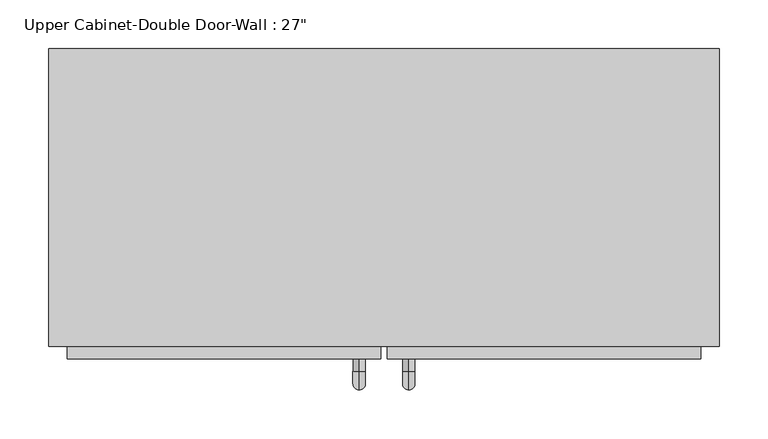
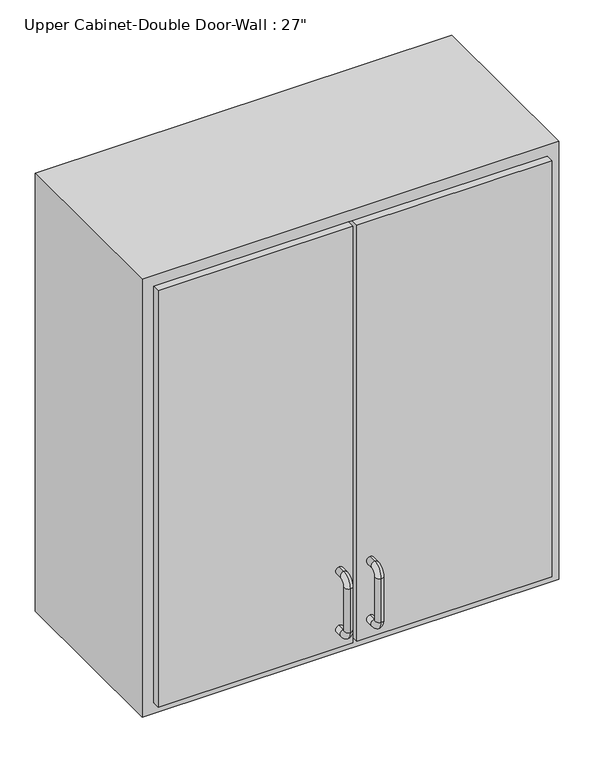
"""IFC4 building model written with IfcOpenShell, lengths in millimetres: furniture geometry."""

from ifc_helpers import new_model, si_unit, point, frame, origin, place, context, project, spatial, polyline, circle_curve, ellipse_curve, trimmed, outline, extrude, faceted_brep, source, transform, mapped, element, save
from ifc_brep_helpers import plane_surface, cylinder_surface, revolved_surface, advanced_brep


def furniture_09d05a5b(model_context):
    return source(origin(), model_context, "Body", "SolidModel", [
        faceted_brep([(-313.1288372, -57.15, 2133.6), (372.6711628, -57.15, 2133.6), (372.6711628, -57.15, 1371.6), (-313.1288372, -57.15, 1371.6), (-313.1288372, -361.95, 2133.6), (-313.1288372, -361.95, 1371.6), (372.6711628, -361.95, 1371.6), (372.6711628, -361.95, 2133.6), (-294.0788372, -361.95, 2114.55), (353.6211628, -361.95, 2114.55), (353.6211628, -361.95, 1390.65), (-294.0788372, -361.95, 1390.65), (-294.0788372, -76.2, 2114.55), (353.6211628, -76.2, 2114.55), (353.6211628, -76.2, 1390.65), (-294.0788372, -76.2, 1390.65)], [[[0, 1, 2, 3]], [[4, 5, 6, 7], [8, 9, 10, 11]], [[3, 5, 4, 0]], [[2, 6, 5, 3]], [[1, 7, 6, 2]], [[0, 4, 7, 1]], [[8, 12, 13, 9]], [[9, 13, 14, 10]], [[10, 14, 15, 11]], [[11, 15, 12, 8]], [[12, 15, 14, 13]]]),
        advanced_brep(
        [(55.1711628, -374.65, 1517.65), (55.1711628, -374.65, 1530.35), (55.1711628, -387.35, 1530.35), (55.1711628, -387.35, 1517.65), (55.1711628, -406.4, 1511.3), (55.1711628, -393.7, 1511.3), (55.1711628, -406.4, 1435.1), (55.1711628, -393.7, 1435.1), (55.1711628, -387.35, 1416.05), (55.1711628, -387.35, 1428.75), (55.1711628, -374.65, 1428.75), (55.1711628, -374.65, 1416.05)],
        [
            (0, 1, circle_curve(frame((55.1711628, -374.65, 1524.0), z_axis=(0.0, 1.0, 0.0), x_axis=(0.0, 0.0, -1.0)), 6.35)),
            (1, 0, circle_curve(frame((55.1711628, -374.65, 1524.0), z_axis=(0.0, 1.0, 0.0), x_axis=(0.0, 0.0, -1.0)), 6.35)),
            (1, 2),
            (2, 3, circle_curve(frame((55.1711628, -387.35, 1524.0), z_axis=(0.0, 1.0, 0.0), x_axis=(0.0, 0.0, -1.0)), 6.35)),
            (3, 0),
            (3, 2, circle_curve(frame((55.1711628, -387.35, 1524.0), z_axis=(0.0, 1.0, 0.0), x_axis=(0.0, 0.0, -1.0)), 6.35)),
            (4, 5, circle_curve(frame((55.1711628, -400.05, 1511.3), z_axis=(0.0, 0.0, 1.0), x_axis=(0.0, 1.0, 0.0)), 6.35)),
            (5, 3, circle_curve(frame((55.1711628, -387.35, 1511.3), z_axis=(-1.0, 0.0, 0.0), x_axis=(0.0, 0.0, 1.0)), 6.35)),
            (2, 4, circle_curve(frame((55.1711628, -387.35, 1511.3), z_axis=(1.0, 0.0, 0.0), x_axis=(0.0, 0.0, 1.0)), 19.05)),
            (5, 4, circle_curve(frame((55.1711628, -400.05, 1511.3), z_axis=(0.0, 0.0, 1.0), x_axis=(0.0, 1.0, 0.0)), 6.35)),
            (4, 6),
            (6, 7, circle_curve(frame((55.1711628, -400.05, 1435.1), z_axis=(0.0, 0.0, 1.0), x_axis=(0.0, 1.0, 0.0)), 6.35)),
            (7, 5),
            (7, 6, circle_curve(frame((55.1711628, -400.05, 1435.1), z_axis=(0.0, 0.0, 1.0), x_axis=(0.0, 1.0, 0.0)), 6.35)),
            (8, 9, circle_curve(frame((55.1711628, -387.35, 1422.4), z_axis=(0.0, -1.0, 0.0), x_axis=(0.0, 0.0, 1.0)), 6.35)),
            (9, 7, circle_curve(frame((55.1711628, -387.35, 1435.1), z_axis=(-1.0, 0.0, 0.0), x_axis=(0.0, -1.0, 0.0)), 6.35)),
            (6, 8, circle_curve(frame((55.1711628, -387.35, 1435.1), z_axis=(1.0, 0.0, 0.0), x_axis=(0.0, -1.0, 0.0)), 19.05)),
            (9, 8, circle_curve(frame((55.1711628, -387.35, 1422.4), z_axis=(0.0, -1.0, 0.0), x_axis=(0.0, 0.0, 1.0)), 6.35)),
            (10, 11, circle_curve(frame((55.1711628, -374.65, 1422.4), z_axis=(0.0, 1.0, 0.0), x_axis=(0.0, 0.0, 1.0)), 6.35)),
            (11, 10, circle_curve(frame((55.1711628, -374.65, 1422.4), z_axis=(0.0, 1.0, 0.0), x_axis=(0.0, 0.0, 1.0)), 6.35)),
            (8, 11),
            (10, 9),
        ],
        [
            plane_surface(frame((48.8211628, -374.65, 1524.0), z_axis=(0.0, 1.0, 0.0), x_axis=(0.0, 0.0, 1.0))),
            cylinder_surface(frame((55.1711628, -374.65, 1524.0), z_axis=(0.0, 1.0, 0.0), x_axis=(0.0, 0.0, -1.0)), 6.35),
            revolved_surface(trimmed(ellipse_curve(frame((55.1711628, -387.35, 1524.0), z_axis=(0.0, -1.0, 0.0), x_axis=(0.0, 0.0, -1.0)), 6.35, 6.35), [point((55.1711628, -387.35, 1517.65))], [point((55.1711628, -387.35, 1530.35))], True, "CARTESIAN"), (55.1711628, -387.35, 1511.3), (-1.0, 0.0, 0.0)),
            revolved_surface(trimmed(ellipse_curve(frame((55.1711628, -387.35, 1524.0), z_axis=(0.0, -1.0, 0.0), x_axis=(0.0, 0.0, -1.0)), 6.35, 6.35), [point((55.1711628, -387.35, 1530.35))], [point((55.1711628, -387.35, 1517.65))], True, "CARTESIAN"), (55.1711628, -387.35, 1511.3), (-1.0, 0.0, 0.0)),
            cylinder_surface(frame((55.1711628, -400.05, 1511.3), z_axis=(0.0, 0.0, 1.0), x_axis=(0.0, 1.0, 0.0)), 6.35),
            revolved_surface(trimmed(ellipse_curve(frame((55.1711628, -400.05, 1435.1), z_axis=(0.0, 0.0, -1.0), x_axis=(0.0, 1.0, 0.0)), 6.35, 6.35), [point((55.1711628, -393.7, 1435.1))], [point((55.1711628, -406.4, 1435.1))], True, "CARTESIAN"), (55.1711628, -387.35, 1435.1), (-1.0, 0.0, 0.0)),
            revolved_surface(trimmed(ellipse_curve(frame((55.1711628, -400.05, 1435.1), z_axis=(0.0, 0.0, -1.0), x_axis=(0.0, 1.0, 0.0)), 6.35, 6.35), [point((55.1711628, -406.4, 1435.1))], [point((55.1711628, -393.7, 1435.1))], True, "CARTESIAN"), (55.1711628, -387.35, 1435.1), (-1.0, 0.0, 0.0)),
            plane_surface(frame((48.8211628, -374.65, 1422.4), z_axis=(0.0, 1.0, 0.0), x_axis=(0.0, 0.0, -1.0))),
            cylinder_surface(frame((55.1711628, -387.35, 1422.4), z_axis=(0.0, -1.0, 0.0), x_axis=(0.0, 0.0, 1.0)), 6.35),
        ],
        [
            (0, [[1, 2]]),
            (1, [[3, 4, 5, -2]]),
            (1, [[-5, 6, -3, -1]]),
            (2, [[7, 8, -4, 9]]),
            (3, [[10, -9, -6, -8]]),
            (4, [[11, 12, 13, -7]]),
            (4, [[-13, 14, -11, -10]]),
            (5, [[15, 16, -12, 17]]),
            (6, [[18, -17, -14, -16]]),
            (7, [[19, 20]]),
            (8, [[21, -19, 22, -15]]),
            (8, [[-22, -20, -21, -18]]),
        ],
    ),
        advanced_brep(
        [(4.3711628, -374.65, 1517.65), (4.3711628, -374.65, 1530.35), (4.3711628, -387.35, 1530.35), (4.3711628, -387.35, 1517.65), (4.3711628, -406.4, 1511.3), (4.3711628, -393.7, 1511.3), (4.3711628, -406.4, 1435.1), (4.3711628, -393.7, 1435.1), (4.3711628, -387.35, 1416.05), (4.3711628, -387.35, 1428.75), (4.3711628, -374.65, 1428.75), (4.3711628, -374.65, 1416.05)],
        [
            (0, 1, circle_curve(frame((4.3711628, -374.65, 1524.0), z_axis=(0.0, 1.0, 0.0), x_axis=(0.0, 0.0, 1.0)), 6.35)),
            (1, 0, circle_curve(frame((4.3711628, -374.65, 1524.0), z_axis=(0.0, 1.0, 0.0), x_axis=(0.0, 0.0, 1.0)), 6.35)),
            (1, 2),
            (2, 3, circle_curve(frame((4.3711628, -387.35, 1524.0), z_axis=(0.0, 1.0, 0.0), x_axis=(0.0, 0.0, 1.0)), 6.35)),
            (3, 0),
            (3, 2, circle_curve(frame((4.3711628, -387.35, 1524.0), z_axis=(0.0, 1.0, 0.0), x_axis=(0.0, 0.0, 1.0)), 6.35)),
            (4, 5, circle_curve(frame((4.3711628, -400.05, 1511.3), z_axis=(0.0, 0.0, 1.0), x_axis=(0.0, -1.0, 0.0)), 6.35)),
            (5, 3, circle_curve(frame((4.3711628, -387.35, 1511.3), z_axis=(-1.0, 0.0, 0.0), x_axis=(0.0, 0.0, 1.0)), 6.35)),
            (2, 4, circle_curve(frame((4.3711628, -387.35, 1511.3), z_axis=(1.0, 0.0, 0.0), x_axis=(0.0, 0.0, 1.0)), 19.05)),
            (5, 4, circle_curve(frame((4.3711628, -400.05, 1511.3), z_axis=(0.0, 0.0, 1.0), x_axis=(0.0, -1.0, 0.0)), 6.35)),
            (4, 6),
            (6, 7, circle_curve(frame((4.3711628, -400.05, 1435.1), z_axis=(0.0, 0.0, 1.0), x_axis=(0.0, -1.0, 0.0)), 6.35)),
            (7, 5),
            (7, 6, circle_curve(frame((4.3711628, -400.05, 1435.1), z_axis=(0.0, 0.0, 1.0), x_axis=(0.0, -1.0, 0.0)), 6.35)),
            (8, 9, circle_curve(frame((4.3711628, -387.35, 1422.4), z_axis=(0.0, -1.0, 0.0), x_axis=(0.0, 0.0, -1.0)), 6.35)),
            (9, 7, circle_curve(frame((4.3711628, -387.35, 1435.1), z_axis=(-1.0, 0.0, 0.0), x_axis=(0.0, -1.0, 0.0)), 6.35)),
            (6, 8, circle_curve(frame((4.3711628, -387.35, 1435.1), z_axis=(1.0, 0.0, 0.0), x_axis=(0.0, -1.0, 0.0)), 19.05)),
            (9, 8, circle_curve(frame((4.3711628, -387.35, 1422.4), z_axis=(0.0, -1.0, 0.0), x_axis=(0.0, 0.0, -1.0)), 6.35)),
            (10, 11, circle_curve(frame((4.3711628, -374.65, 1422.4), z_axis=(0.0, 1.0, 0.0), x_axis=(0.0, 0.0, -1.0)), 6.35)),
            (11, 10, circle_curve(frame((4.3711628, -374.65, 1422.4), z_axis=(0.0, 1.0, 0.0), x_axis=(0.0, 0.0, -1.0)), 6.35)),
            (8, 11),
            (10, 9),
        ],
        [
            plane_surface(frame((-1.9788372, -374.65, 1524.0), z_axis=(0.0, 1.0, 0.0), x_axis=(0.0, 0.0, 1.0))),
            cylinder_surface(frame((4.3711628, -374.65, 1524.0), z_axis=(0.0, 1.0, 0.0), x_axis=(0.0, 0.0, 1.0)), 6.35),
            revolved_surface(trimmed(ellipse_curve(frame((4.3711628, -387.35, 1524.0), z_axis=(0.0, -1.0, 0.0), x_axis=(0.0, 0.0, 1.0)), 6.35, 6.35), [point((4.3711628, -387.35, 1517.65))], [point((4.3711628, -387.35, 1530.35))], True, "CARTESIAN"), (4.3711628, -387.35, 1511.3), (-1.0, 0.0, 0.0)),
            revolved_surface(trimmed(ellipse_curve(frame((4.3711628, -387.35, 1524.0), z_axis=(0.0, -1.0, 0.0), x_axis=(0.0, 0.0, 1.0)), 6.35, 6.35), [point((4.3711628, -387.35, 1530.35))], [point((4.3711628, -387.35, 1517.65))], True, "CARTESIAN"), (4.3711628, -387.35, 1511.3), (-1.0, 0.0, 0.0)),
            cylinder_surface(frame((4.3711628, -400.05, 1511.3), z_axis=(0.0, 0.0, 1.0), x_axis=(0.0, -1.0, 0.0)), 6.35),
            revolved_surface(trimmed(ellipse_curve(frame((4.3711628, -400.05, 1435.1), z_axis=(0.0, 0.0, -1.0), x_axis=(0.0, -1.0, 0.0)), 6.35, 6.35), [point((4.3711628, -393.7, 1435.1))], [point((4.3711628, -406.4, 1435.1))], True, "CARTESIAN"), (4.3711628, -387.35, 1435.1), (-1.0, 0.0, 0.0)),
            revolved_surface(trimmed(ellipse_curve(frame((4.3711628, -400.05, 1435.1), z_axis=(0.0, 0.0, -1.0), x_axis=(0.0, -1.0, 0.0)), 6.35, 6.35), [point((4.3711628, -406.4, 1435.1))], [point((4.3711628, -393.7, 1435.1))], True, "CARTESIAN"), (4.3711628, -387.35, 1435.1), (-1.0, 0.0, 0.0)),
            plane_surface(frame((-1.9788372, -374.65, 1422.4), z_axis=(0.0, 1.0, 0.0), x_axis=(0.0, 0.0, -1.0))),
            cylinder_surface(frame((4.3711628, -387.35, 1422.4), z_axis=(0.0, -1.0, 0.0), x_axis=(0.0, 0.0, -1.0)), 6.35),
        ],
        [
            (0, [[1, 2]]),
            (1, [[3, 4, 5, -2]]),
            (1, [[-5, 6, -3, -1]]),
            (2, [[7, 8, -4, 9]]),
            (3, [[10, -9, -6, -8]]),
            (4, [[11, 12, 13, -7]]),
            (4, [[-13, 14, -11, -10]]),
            (5, [[15, 16, -12, 17]]),
            (6, [[18, -17, -14, -16]]),
            (7, [[19, 20]]),
            (8, [[21, -19, 22, -15]]),
            (8, [[-22, -20, -21, -18]]),
        ],
    ),
        extrude(outline(polyline([(32.9461628, -374.65), (32.9461628, -342.9), (353.6211628, -342.9), (353.6211628, -374.65), (32.9461628, -374.65)])), frame((0.0, 0.0, 1390.65), z_axis=(0.0, 0.0, 1.0), x_axis=(1.0, 0.0, 0.0)), (0.0, 0.0, 1.0), 723.9),
        extrude(outline(polyline([(-294.0788372, -374.65), (-294.0788372, -342.9), (26.5961628, -342.9), (26.5961628, -374.65), (-294.0788372, -374.65)])), frame((0.0, 0.0, 1390.65), z_axis=(0.0, 0.0, 1.0), x_axis=(1.0, 0.0, 0.0)), (0.0, 0.0, 1.0), 723.9),
    ])


if __name__ == "__main__":
    model = new_model("IFC4")
    model_context = context("Model", 3, world=origin())
    ifc_project = project(units=[si_unit("LENGTHUNIT", "METRE", prefix="MILLI")], contexts=[model_context])
    site = spatial("IfcSite", under=ifc_project)
    building = spatial("IfcBuilding", under=site)
    placement = place(None, origin())
    furniture_shape = furniture_09d05a5b(model_context)
    element("IfcFurniture", 1, ObjectType="Upper Cabinet-Double Door-Wall : 27\"", at=placement, inside=building, context=model_context, shape_type="MappedRepresentation", body=[
        mapped(furniture_shape, transform((0.0, 0.0, 0.0), x_axis=(1.0, 0.0, 0.0), y_axis=(0.0, 1.0, 0.0), z_axis=(0.0, 0.0, 1.0))),
    ])
    save(model, "model.ifc")
